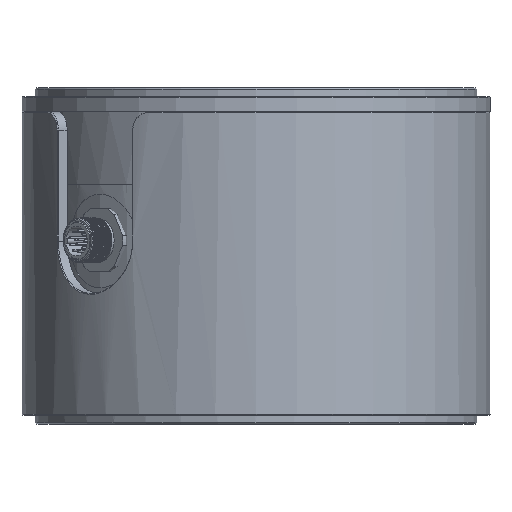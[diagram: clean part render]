
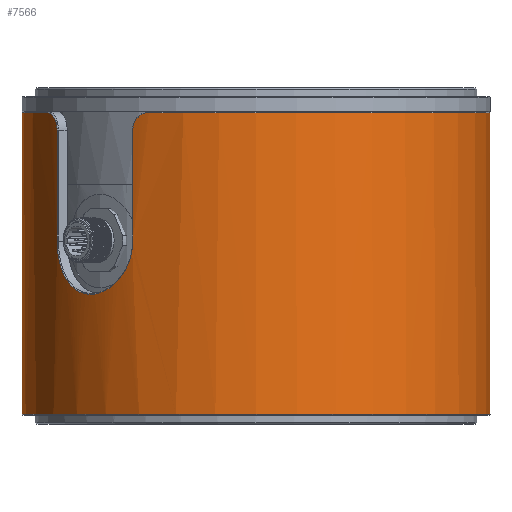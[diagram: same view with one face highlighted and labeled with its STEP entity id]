
A CAD part, front view. The second image highlights one B-rep face of the part: STEP entity #7566.
In plain terms, the highlighted cylindrical face has radius 62.5 mm (diameter 125 mm), a full revolution.
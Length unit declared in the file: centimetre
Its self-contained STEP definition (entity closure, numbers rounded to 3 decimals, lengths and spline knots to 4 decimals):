
#1850=VECTOR('',#9550,1.);
#1851=VECTOR('',#9551,1.);
#2188=LINE('',#22117,#1850);
#2189=LINE('',#22142,#1851);
#2364=B_SPLINE_CURVE_WITH_KNOTS('',3,(#22103,#22104,#22105,#22106,#22107,
#22108,#22109,#22110,#22111,#22112,#22113,#22114),.UNSPECIFIED.,.F.,.U.,
(4,2,2,2,2,4),(0.,0.178,0.3634,0.3781,
0.5552,0.7561),.UNSPECIFIED.);
#2365=B_SPLINE_CURVE_WITH_KNOTS('',3,(#22119,#22120,#22121,#22122,#22123,
#22124,#22125,#22126,#22127,#22128,#22129,#22130,#22131,#22132,#22133,#22134,
#22135,#22136,#22137,#22138,#22139,#22140),.UNSPECIFIED.,.F.,.U.,(4,2,2,
2,2,2,2,2,2,2,4),(0.,0.5485,1.1097,1.6542,
1.996,2.2652,2.5431,2.9201,3.4884,
4.0028,4.4696),.UNSPECIFIED.);
#2366=B_SPLINE_CURVE_WITH_KNOTS('',3,(#22144,#22145,#22146,#22147,#22148,
#22149,#22150,#22151,#22152,#22153),.UNSPECIFIED.,.F.,.U.,(4,2,2,2,4),(0.,
0.2009,0.3927,0.5781,0.7561),
 .UNSPECIFIED.);
#3108=VERTEX_POINT('',#22101);
#3109=VERTEX_POINT('',#22115);
#3110=VERTEX_POINT('',#22116);
#3111=VERTEX_POINT('',#22118);
#3112=VERTEX_POINT('',#22141);
#3113=VERTEX_POINT('',#22143);
#3114=VERTEX_POINT('',#22154);
#3387=CIRCLE('',#8178,6.25);
#3388=CIRCLE('',#8180,6.25);
#4126=EDGE_CURVE('',#3108,#3108,#3387,.T.);
#4127=EDGE_CURVE('',#3109,#3110,#2364,.T.);
#4128=EDGE_CURVE('',#3111,#3109,#2188,.T.);
#4129=EDGE_CURVE('',#3112,#3111,#2365,.F.);
#4130=EDGE_CURVE('',#3113,#3112,#2189,.T.);
#4131=EDGE_CURVE('',#3114,#3113,#2366,.T.);
#4132=EDGE_CURVE('',#3110,#3114,#3388,.T.);
#5637=ORIENTED_EDGE('',*,*,#4127,.F.);
#5638=ORIENTED_EDGE('',*,*,#4128,.F.);
#5639=ORIENTED_EDGE('',*,*,#4129,.F.);
#5640=ORIENTED_EDGE('',*,*,#4130,.F.);
#5641=ORIENTED_EDGE('',*,*,#4131,.F.);
#5642=ORIENTED_EDGE('',*,*,#4132,.F.);
#5643=ORIENTED_EDGE('',*,*,#4126,.F.);
#6416=EDGE_LOOP('',(#5637,#5638,#5639,#5640,#5641,#5642));
#6417=EDGE_LOOP('',(#5643));
#7108=FACE_BOUND('',#6416,.T.);
#7109=FACE_BOUND('',#6417,.T.);
#7566=ADVANCED_FACE('',(#7108,#7109),#22936,.T.);
#8178=AXIS2_PLACEMENT_3D('',#22100,#9546,#9547);
#8179=AXIS2_PLACEMENT_3D('',#22102,#9548,#9549);
#8180=AXIS2_PLACEMENT_3D('',#22155,#9552,#9553);
#9546=DIRECTION('',(0.,0.,1.));
#9547=DIRECTION('',(-6.25,0.,0.));
#9548=DIRECTION('',(0.,0.,1.));
#9549=DIRECTION('',(6.25,0.,0.));
#9550=DIRECTION('',(0.,0.,-1.));
#9551=DIRECTION('',(0.,0.,1.));
#9552=DIRECTION('',(0.,0.,-1.));
#9553=DIRECTION('',(-4.419,-4.419,0.));
#22100=CARTESIAN_POINT('',(0.,0.,4.025));
#22101=CARTESIAN_POINT('',(6.25,0.,4.025));
#22102=CARTESIAN_POINT('',(0.,0.,-4.05));
#22103=CARTESIAN_POINT('',(5.3137,3.2904,-3.55));
#22104=CARTESIAN_POINT('',(5.3137,3.2904,-3.6093));
#22105=CARTESIAN_POINT('',(5.32,3.2803,-3.6697));
#22106=CARTESIAN_POINT('',(5.3439,3.2412,-3.7819));
#22107=CARTESIAN_POINT('',(5.3625,3.2107,-3.8354));
#22108=CARTESIAN_POINT('',(5.3864,3.17,-3.8827));
#22109=CARTESIAN_POINT('',(5.3882,3.167,-3.8861));
#22110=CARTESIAN_POINT('',(5.4118,3.1267,-3.9302));
#22111=CARTESIAN_POINT('',(5.4375,3.082,-3.9633));
#22112=CARTESIAN_POINT('',(5.4943,2.9799,-4.0117));
#22113=CARTESIAN_POINT('',(5.5267,2.9194,-4.025));
#22114=CARTESIAN_POINT('',(5.5574,2.8596,-4.025));
#22115=CARTESIAN_POINT('',(5.3137,3.2904,-3.55));
#22116=CARTESIAN_POINT('',(5.5574,2.8596,-4.025));
#22117=CARTESIAN_POINT('',(5.3137,3.2904,-4.05));
#22118=CARTESIAN_POINT('',(5.3137,3.2904,-0.6));
#22119=CARTESIAN_POINT('',(5.3137,3.2904,-0.6));
#22120=CARTESIAN_POINT('',(5.3137,3.2904,-0.4172));
#22121=CARTESIAN_POINT('',(5.2941,3.3227,-0.231));
#22122=CARTESIAN_POINT('',(5.2167,3.4429,0.1104));
#22123=CARTESIAN_POINT('',(5.1566,3.5341,0.2714));
#22124=CARTESIAN_POINT('',(5.0037,3.7472,0.5314));
#22125=CARTESIAN_POINT('',(4.9091,3.8718,0.6368));
#22126=CARTESIAN_POINT('',(4.7347,4.0812,0.7534));
#22127=CARTESIAN_POINT('',(4.6614,4.165,0.7861));
#22128=CARTESIAN_POINT('',(4.5243,4.3129,0.82));
#22129=CARTESIAN_POINT('',(4.4613,4.3781,0.8266));
#22130=CARTESIAN_POINT('',(4.3312,4.5069,0.8226));
#22131=CARTESIAN_POINT('',(4.2634,4.571,0.8115));
#22132=CARTESIAN_POINT('',(4.1048,4.7147,0.7645));
#22133=CARTESIAN_POINT('',(4.0129,4.7929,0.7208));
#22134=CARTESIAN_POINT('',(3.7945,4.9692,0.5755));
#22135=CARTESIAN_POINT('',(3.6701,5.0604,0.4523));
#22136=CARTESIAN_POINT('',(3.479,5.1934,0.1758));
#22137=CARTESIAN_POINT('',(3.4049,5.2414,0.0221));
#22138=CARTESIAN_POINT('',(3.3135,5.2996,-0.2867));
#22139=CARTESIAN_POINT('',(3.2904,5.3137,-0.4444));
#22140=CARTESIAN_POINT('',(3.2904,5.3137,-0.6));
#22141=CARTESIAN_POINT('',(3.2904,5.3137,-0.6));
#22142=CARTESIAN_POINT('',(3.2904,5.3137,-4.05));
#22143=CARTESIAN_POINT('',(3.2904,5.3137,-3.55));
#22144=CARTESIAN_POINT('',(2.8596,5.5574,-4.025));
#22145=CARTESIAN_POINT('',(2.9194,5.5267,-4.025));
#22146=CARTESIAN_POINT('',(2.9799,5.4943,-4.0117));
#22147=CARTESIAN_POINT('',(3.0859,5.4353,-3.9614));
#22148=CARTESIAN_POINT('',(3.134,5.4076,-3.9246));
#22149=CARTESIAN_POINT('',(3.2107,5.3625,-3.8354));
#22150=CARTESIAN_POINT('',(3.2412,5.3439,-3.7819));
#22151=CARTESIAN_POINT('',(3.2803,5.32,-3.6697));
#22152=CARTESIAN_POINT('',(3.2904,5.3137,-3.6093));
#22153=CARTESIAN_POINT('',(3.2904,5.3137,-3.55));
#22154=CARTESIAN_POINT('',(2.8596,5.5574,-4.025));
#22155=CARTESIAN_POINT('',(0.,0.,-4.025));
#22936=CYLINDRICAL_SURFACE('',#8179,6.25);
